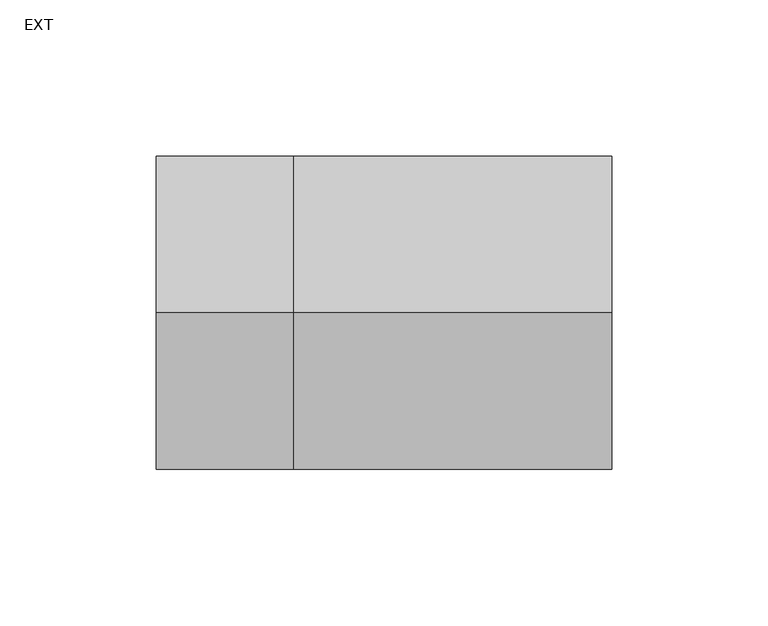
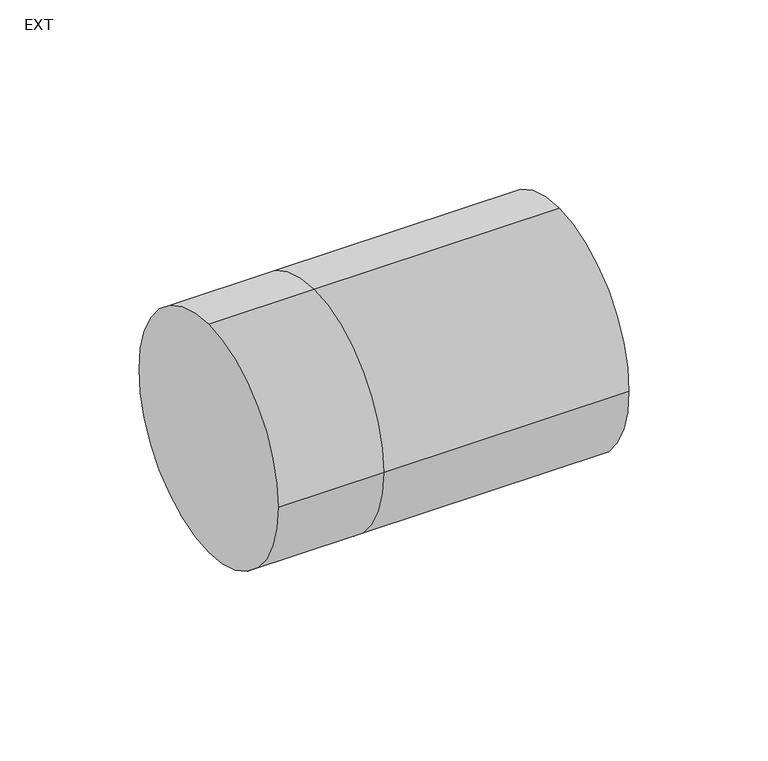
"""IFC4 building model written with IfcOpenShell, lengths in millimetres: duct fitting geometry, M_Toma de derivación redonda : EXT."""

import ifcopenshell
import ifcopenshell.guid

model = None  # the IFC model being written
_history = None  # IfcOwnerHistory: only IFC2X3 demands one
_inside = {}  # id of a spatial element -> (the spatial element, [elements in it])
_under = {}  # id of a project, library or spatial element -> (it, [spatial elements below it])
_declared = {}  # id of a project -> (the project, [libraries it declares])
_typed = {}  # id of a type object -> (the type object, [elements of that type])
_made_of = {}  # id of a material, layer set ... -> (it, [elements and type objects made of it])


def new_model(schema):
    """Start an empty IFC model of exactly this schema.

    Asked for "IFC4X3", IfcOpenShell would pick the latest addendum, in which some entities
    have other attributes; the version numbers below select the first issue.
    IFC2X3 requires an IfcOwnerHistory on every rooted entity: one is made here for all.
    """
    global model, _history
    if schema == "IFC4X3":
        model = ifcopenshell.file(schema_version=(4, 3, 0, 0))
    else:
        model = ifcopenshell.file(schema=schema)
    _inside.clear()
    _under.clear()
    _declared.clear()
    _typed.clear()
    _made_of.clear()
    _history = None
    if model.schema == "IFC2X3":
        org = make("IfcOrganization", Name="unknown")
        user = make(
            "IfcPersonAndOrganization",
            ThePerson=make("IfcPerson", FamilyName="unknown"),
            TheOrganization=org,
        )
        app = make(
            "IfcApplication",
            ApplicationDeveloper=org,
            Version="unknown",
            ApplicationFullName="unknown",
            ApplicationIdentifier="unknown",
        )
        _history = make(
            "IfcOwnerHistory",
            OwningUser=user,
            OwningApplication=app,
            ChangeAction="ADDED",
            CreationDate=0,
        )
    return model


def make(cls, **values):
    """One entity of the class cls with the attributes given. An attribute that is None is left unset."""
    return model.create_entity(
        cls, **{name: value for name, value in values.items() if value is not None}
    )


def rooted(cls, **values):
    """An entity with a GlobalId (a new one), such as an element, a storey or a relation."""
    return make(cls, GlobalId=ifcopenshell.guid.new(), OwnerHistory=_history, **values)


def si_unit(unit_type, name, prefix=None):
    """IfcSIUnit, for example si_unit("LENGTHUNIT", "METRE", prefix="MILLI")."""
    return make("IfcSIUnit", UnitType=unit_type, Prefix=prefix, Name=name)


def assignment(units):
    """IfcUnitAssignment: the units of a project."""
    return None if units is None else make("IfcUnitAssignment", Units=units)


def point(xyz):
    """IfcCartesianPoint."""
    return None if xyz is None else make("IfcCartesianPoint", Coordinates=xyz)


def direction(xyz):
    """IfcDirection."""
    return None if xyz is None else make("IfcDirection", DirectionRatios=xyz)


def frame(location, z_axis=None, x_axis=None):
    """IfcAxis2Placement3D, a coordinate frame: its origin and axes. An axis left out is left unset."""
    return make(
        "IfcAxis2Placement3D",
        Location=point(location),
        Axis=direction(z_axis),
        RefDirection=direction(x_axis),
    )


def origin():
    """The frame at (0, 0, 0) with its axes left unset."""
    return frame((0.0, 0.0, 0.0))


def place(relative_to, where):
    """IfcLocalPlacement: puts the frame where relative to a parent placement (None: the world)."""
    return make(
        "IfcLocalPlacement", PlacementRelTo=relative_to, RelativePlacement=where
    )


def context(
    kind, dimensions, precision=None, world=None, true_north=None, identifier=None
):
    """IfcGeometricRepresentationContext, for example the 3D "Model" context."""
    return make(
        "IfcGeometricRepresentationContext",
        ContextIdentifier=identifier,
        ContextType=kind,
        CoordinateSpaceDimension=dimensions,
        Precision=precision,
        WorldCoordinateSystem=world,
        TrueNorth=true_north,
    )


def project(units=None, contexts=None):
    """IfcProject with its units and contexts."""
    return rooted(
        "IfcProject",
        Name="project",
        RepresentationContexts=contexts,
        UnitsInContext=assignment(units),
    )


def spatial(cls, under=None, at=None, **own):
    """A site, building, storey or space (cls), placed at a placement, below another one or the project."""
    s = rooted(cls, ObjectPlacement=at, **own)
    if under is not None:
        _under.setdefault(under.id(), (under, []))[1].append(s)
    return s


def circle_curve(where, radius):
    """IfcCircle in the frame where."""
    return make("IfcCircle", Position=where, Radius=radius)


def shape(context_of_items, identifier, shape_type, items):
    """IfcShapeRepresentation: the items that make up one representation, for example the "Body"."""
    return make(
        "IfcShapeRepresentation",
        ContextOfItems=context_of_items,
        RepresentationIdentifier=identifier,
        RepresentationType=shape_type,
        Items=items,
    )


def source(mapping_origin, context_of_items, identifier, shape_type, items):
    """IfcRepresentationMap: a shape defined once, which mapped items show again and again."""
    return make(
        "IfcRepresentationMap",
        MappingOrigin=mapping_origin,
        MappedRepresentation=shape(context_of_items, identifier, shape_type, items),
    )


def transform(
    local_origin,
    x_axis=None,
    y_axis=None,
    z_axis=None,
    scale=None,
    scale2=None,
    scale3=None,
    uniform=True,
):
    """IfcCartesianTransformationOperator3D, or its non-uniform kind. x_axis, y_axis, z_axis: its Axis1, 2, 3."""
    if uniform:
        return make(
            "IfcCartesianTransformationOperator3D",
            Axis1=direction(x_axis),
            Axis2=direction(y_axis),
            LocalOrigin=point(local_origin),
            Scale=scale,
            Axis3=direction(z_axis),
        )
    return make(
        "IfcCartesianTransformationOperator3DnonUniform",
        Axis1=direction(x_axis),
        Axis2=direction(y_axis),
        LocalOrigin=point(local_origin),
        Scale=scale,
        Axis3=direction(z_axis),
        Scale2=scale2,
        Scale3=scale3,
    )


def mapped(mapping_source, mapping_target):
    """IfcMappedItem: shows the shape of a source again, moved by a transform."""
    return make(
        "IfcMappedItem", MappingSource=mapping_source, MappingTarget=mapping_target
    )


def made_of(thing, what):
    """Note that an element or type object is made of a material, layer set ...; save() writes the relation."""
    if what is not None:
        _made_of.setdefault(what.id(), (what, []))[1].append(thing)
    return thing


def element(
    cls,
    number,
    at=None,
    inside=None,
    cuts=None,
    type_object=None,
    material=None,
    context=None,
    identifier="Body",
    shape_type=None,
    held_by="IfcProductDefinitionShape",
    body=None,
    shapes=None,
    **own,
):
    """One element of the class cls, such as IfcWall. Its Tag is "e" and its number.

    at: its placement. inside: the storey or other place that contains it. cuts: it is an
    opening in that element (IfcRelVoidsElement). A single representation is given by context,
    identifier, shape_type and body (its items); several are given by shapes. held_by: the class
    of the entity that holds the representations. save() writes the other relations.
    """
    e = rooted(cls, Tag="e%d" % number, ObjectPlacement=at, **own)
    if body is not None:
        shapes = [shape(context, identifier, shape_type, body)]
    if shapes is not None:
        e.Representation = make(held_by, Representations=shapes)
    if inside is not None:
        _inside.setdefault(inside.id(), (inside, []))[1].append(e)
    if cuts is not None:
        rooted(
            "IfcRelVoidsElement", RelatingBuildingElement=cuts, RelatedOpeningElement=e
        )
    if type_object is not None:
        _typed.setdefault(type_object.id(), (type_object, []))[1].append(e)
    return made_of(e, material)


def aggregate(whole, parts):
    """IfcRelAggregates: a whole, such as a stair, and the parts it consists of."""
    return rooted("IfcRelAggregates", RelatingObject=whole, RelatedObjects=parts)


def save(model, path):
    """Write the relations noted so far, then the file.

    IfcRelAggregates (storeys below a building ...), IfcRelContainedInSpatialStructure (elements
    in a storey), IfcRelDefinesByType, IfcRelAssociatesMaterial and IfcRelDeclares: one each for
    every whole, place, type object, material and project.
    """
    for whole, parts in _under.values():
        aggregate(whole, parts)
    for where, things in _inside.values():
        rooted(
            "IfcRelContainedInSpatialStructure",
            RelatedElements=things,
            RelatingStructure=where,
        )
    for kind, things in _typed.values():
        rooted("IfcRelDefinesByType", RelatedObjects=things, RelatingType=kind)
    for what, things in _made_of.values():
        rooted("IfcRelAssociatesMaterial", RelatedObjects=things, RelatingMaterial=what)
    for by, libraries in _declared.values():
        rooted("IfcRelDeclares", RelatingContext=by, RelatedDefinitions=libraries)
    model.write(path)


def plane_surface(at):
    """IfcPlane: the flat surface through the origin of the frame at, square to its z axis."""
    return make("IfcPlane", Position=at)


def cylinder_surface(at, radius):
    """IfcCylindricalSurface: all points at the distance radius from the z axis of the frame at."""
    return make("IfcCylindricalSurface", Position=at, Radius=radius)


def advanced_brep(points, edges, surfaces, faces):
    """IfcAdvancedBrep: a solid bounded by faces that lie on surfaces and meet in shared edges.

    An edge is (start, end): straight between two places in points (the first is 0);
    or (start, end, curve); or (start, end, curve, False) where it runs against its curve.
    A face is (place in surfaces, loops), or (place, loops, False) where it looks against
    its surface's normal. A loop lists edges by number (the first is 1), with a minus sign
    where the edge is run from its end to its start. The first loop is the outer one.
    """
    corners = [point(p) for p in points]
    vertices = [make("IfcVertexPoint", VertexGeometry=c) for c in corners]
    made = []
    for start, end, *more in edges:
        made.append(
            make(
                "IfcEdgeCurve",
                EdgeStart=vertices[start],
                EdgeEnd=vertices[end],
                EdgeGeometry=more[0] if more else make("IfcPolyline", Points=[corners[start], corners[end]]),
                SameSense=more[1] if len(more) > 1 else True,
            )
        )
    hull = []
    for where, loops, *sense in faces:
        bounds = []
        for j, loop in enumerate(loops):
            ring = [make("IfcOrientedEdge", EdgeElement=made[abs(k) - 1], Orientation=k > 0) for k in loop]
            bounds.append(
                make(
                    "IfcFaceOuterBound" if j == 0 else "IfcFaceBound",
                    Bound=make("IfcEdgeLoop", EdgeList=ring),
                    Orientation=True,
                )
            )
        hull.append(make("IfcAdvancedFace", Bounds=bounds, FaceSurface=surfaces[where], SameSense=sense[0] if sense else True))
    return make("IfcAdvancedBrep", Outer=make("IfcClosedShell", CfsFaces=hull))


def ext_088e3dfa(model_context):
    return source(origin(), model_context, "Body", "AdvancedBrep", [
        advanced_brep(
        [(101.6, 0.0, 50.0), (101.6, -50.0, 0.0), (101.6, 0.0, -50.0), (101.6, 50.0, 0.0), (0.0, 0.0, 50.0), (0.0, -50.0, 0.0), (0.0, 0.0, -50.0), (0.0, 50.0, 0.0), (-43.904, 0.0, 50.0), (-43.904, 50.0, 0.0), (-43.904, 0.0, -50.0), (-43.904, -50.0, 0.0)],
        [
            (0, 1, circle_curve(frame((101.6, 0.0, 0.0), z_axis=(1.0, 0.0, 0.0), x_axis=(0.0, -1.0, 0.0)), 50.0)),
            (1, 2, circle_curve(frame((101.6, 0.0, 0.0), z_axis=(1.0, 0.0, 0.0), x_axis=(0.0, -1.0, 0.0)), 50.0)),
            (2, 3, circle_curve(frame((101.6, 0.0, 0.0), z_axis=(1.0, 0.0, 0.0), x_axis=(0.0, -1.0, 0.0)), 50.0)),
            (3, 0, circle_curve(frame((101.6, 0.0, 0.0), z_axis=(1.0, 0.0, 0.0), x_axis=(0.0, -1.0, 0.0)), 50.0)),
            (0, 4),
            (4, 5, circle_curve(frame((0.0, 0.0, 0.0), z_axis=(1.0, 0.0, 0.0), x_axis=(0.0, -1.0, 0.0)), 50.0)),
            (5, 1),
            (5, 6, circle_curve(frame((0.0, 0.0, 0.0), z_axis=(1.0, 0.0, 0.0), x_axis=(0.0, -1.0, 0.0)), 50.0)),
            (6, 2),
            (6, 7, circle_curve(frame((0.0, 0.0, 0.0), z_axis=(1.0, 0.0, 0.0), x_axis=(0.0, -1.0, 0.0)), 50.0)),
            (7, 3),
            (7, 4, circle_curve(frame((0.0, 0.0, 0.0), z_axis=(1.0, 0.0, 0.0), x_axis=(0.0, -1.0, 0.0)), 50.0)),
            (8, 9, circle_curve(frame((-43.904, 0.0, 0.0), z_axis=(-1.0, 0.0, 0.0), x_axis=(0.0, -1.0, 0.0)), 50.0)),
            (9, 10, circle_curve(frame((-43.904, 0.0, 0.0), z_axis=(-1.0, 0.0, 0.0), x_axis=(0.0, -1.0, 0.0)), 50.0)),
            (10, 11, circle_curve(frame((-43.904, 0.0, 0.0), z_axis=(-1.0, 0.0, 0.0), x_axis=(0.0, -1.0, 0.0)), 50.0)),
            (11, 8, circle_curve(frame((-43.904, 0.0, 0.0), z_axis=(-1.0, 0.0, 0.0), x_axis=(0.0, -1.0, 0.0)), 50.0)),
            (11, 5),
            (4, 8),
            (10, 6),
            (9, 7),
        ],
        [
            plane_surface(frame((101.6, 0.0, 0.0), z_axis=(1.0, 0.0, 0.0), x_axis=(0.0, 0.0, 1.0))),
            cylinder_surface(frame((0.0, 0.0, 0.0), z_axis=(-1.0, 0.0, 0.0), x_axis=(0.0, -1.0, 0.0)), 50.0),
            plane_surface(frame((-43.904, 0.0, 0.0), z_axis=(-1.0, 0.0, 0.0), x_axis=(0.0, 0.0, 1.0))),
            cylinder_surface(frame((-43.904, 0.0, 0.0), z_axis=(-1.0, 0.0, 0.0), x_axis=(0.0, -1.0, 0.0)), 50.0),
        ],
        [
            (0, [[1, 2, 3, 4]]),
            (1, [[5, 6, 7, -1]]),
            (1, [[-7, 8, 9, -2]]),
            (1, [[-9, 10, 11, -3]]),
            (1, [[-11, 12, -5, -4]]),
            (2, [[13, 14, 15, 16]]),
            (3, [[17, -6, 18, -16]]),
            (3, [[19, -8, -17, -15]]),
            (3, [[20, -10, -19, -14]]),
            (3, [[-18, -12, -20, -13]]),
        ],
    ),
    ])


if __name__ == "__main__":
    model = new_model("IFC4")
    model_context = context("Model", 3, world=origin())
    ifc_project = project(units=[si_unit("LENGTHUNIT", "METRE", prefix="MILLI")], contexts=[model_context])
    site = spatial("IfcSite", under=ifc_project)
    building = spatial("IfcBuilding", under=site)
    placement = place(None, origin())
    ext_shape = ext_088e3dfa(model_context)
    element("IfcDuctFitting", 1, ObjectType="M_Toma de derivación redonda : EXT", at=placement, inside=building, context=model_context, shape_type="MappedRepresentation", body=[
        mapped(ext_shape, transform((0.0, 0.0, 0.0), x_axis=(1.0, 0.0, 0.0), y_axis=(0.0, 1.0, 0.0), z_axis=(0.0, 0.0, 1.0))),
    ])
    save(model, "model.ifc")
